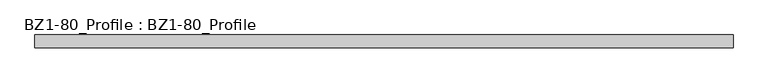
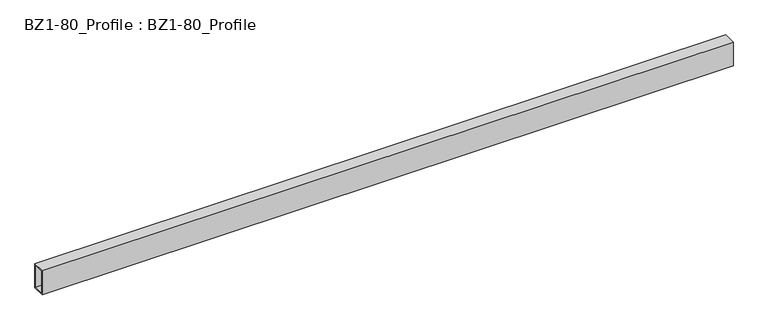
"""IFC4 building model written with IfcOpenShell, lengths in millimetres: beam geometry, BZ1-80_Profile : BZ1-80_Profile."""

from ifc_helpers import new_model, si_unit, frame, origin, place, context, project, spatial, polyline, outline, extrude, source, transform, mapped, element, save


def bz1_80_profile_bz1_80_profile_5f0942c5(model_context):
    return source(origin(), model_context, "Body", "SweptSolid", [
        extrude(outline(polyline([(-20.0, 40.0), (20.0, 40.0), (20.0, -40.0), (-20.0, -40.0), (-20.0, 40.0)]), holes=[polyline([(-16.0, 36.0), (-16.0, -36.0), (16.0, -36.0), (16.0, 36.0), (-16.0, 36.0)])]), frame((-1097.5, 0.0, 0.0), z_axis=(1.0, 0.0, 0.0), x_axis=(0.0, 1.0, 0.0)), (0.0, 0.0, 1.0), 2195.0),
    ])


if __name__ == "__main__":
    model = new_model("IFC4")
    model_context = context("Model", 3, world=origin())
    ifc_project = project(units=[si_unit("LENGTHUNIT", "METRE", prefix="MILLI")], contexts=[model_context])
    site = spatial("IfcSite", under=ifc_project)
    building = spatial("IfcBuilding", under=site)
    placement = place(None, origin())
    bz1_80_profile_bz1_80_profile_shape = bz1_80_profile_bz1_80_profile_5f0942c5(model_context)
    element("IfcBeam", 1, ObjectType="BZ1-80_Profile : BZ1-80_Profile", at=placement, inside=building, context=model_context, shape_type="MappedRepresentation", body=[
        mapped(bz1_80_profile_bz1_80_profile_shape, transform((0.0, 0.0, 0.0), x_axis=(1.0, 0.0, 0.0), y_axis=(0.0, 1.0, 0.0), z_axis=(0.0, 0.0, 1.0))),
    ])
    save(model, "model.ifc")
